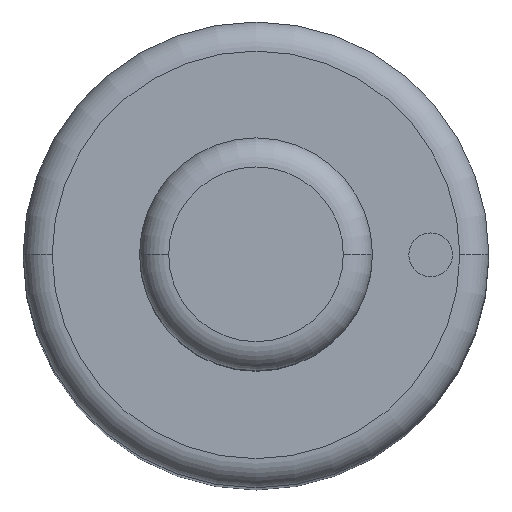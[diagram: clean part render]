
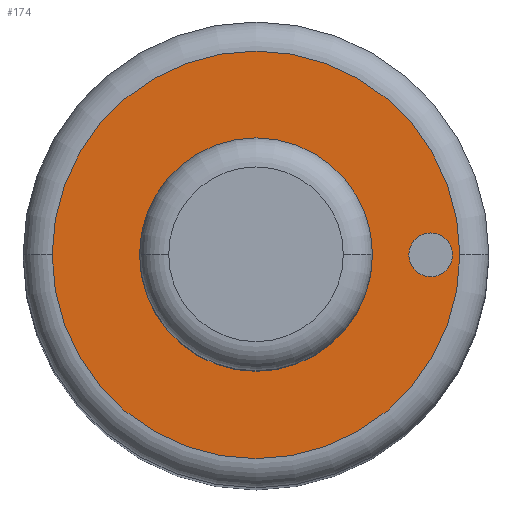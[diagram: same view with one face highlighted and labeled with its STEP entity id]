
A CAD part, top view. The second image highlights one B-rep face of the part: STEP entity #174.
In plain terms, the highlighted planar face has unit normal (0, 0, 1).
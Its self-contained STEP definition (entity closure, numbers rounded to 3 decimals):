
#99=FACE_BOUND('',#225,.T.);
#100=FACE_BOUND('',#226,.T.);
#101=FACE_BOUND('',#227,.T.);
#174=ADVANCED_FACE('',(#99,#100,#101),#180,.T.);
#180=PLANE('',#475);
#225=EDGE_LOOP('',(#307,#308));
#226=EDGE_LOOP('',(#309,#310));
#227=EDGE_LOOP('',(#311,#312));
#307=ORIENTED_EDGE('',*,*,#367,.F.);
#308=ORIENTED_EDGE('',*,*,#368,.F.);
#309=ORIENTED_EDGE('',*,*,#390,.F.);
#310=ORIENTED_EDGE('',*,*,#391,.F.);
#311=ORIENTED_EDGE('',*,*,#363,.T.);
#312=ORIENTED_EDGE('',*,*,#361,.T.);
#329=VERTEX_POINT('',#630);
#330=VERTEX_POINT('',#632);
#331=VERTEX_POINT('',#638);
#334=VERTEX_POINT('',#643);
#346=VERTEX_POINT('',#692);
#347=VERTEX_POINT('',#693);
#361=EDGE_CURVE('',#330,#329,#404,.T.);
#363=EDGE_CURVE('',#329,#330,#405,.T.);
#367=EDGE_CURVE('',#334,#331,#409,.T.);
#368=EDGE_CURVE('',#331,#334,#410,.T.);
#390=EDGE_CURVE('',#346,#347,#422,.T.);
#391=EDGE_CURVE('',#347,#346,#423,.T.);
#404=CIRCLE('',#440,4.);
#405=CIRCLE('',#442,4.);
#409=CIRCLE('',#447,7.);
#410=CIRCLE('',#449,7.);
#422=CIRCLE('',#473,0.75);
#423=CIRCLE('',#474,0.75);
#440=AXIS2_PLACEMENT_3D('',#631,#512,#513);
#442=AXIS2_PLACEMENT_3D('',#635,#517,#518);
#447=AXIS2_PLACEMENT_3D('',#644,#527,#528);
#449=AXIS2_PLACEMENT_3D('',#646,#531,#532);
#473=AXIS2_PLACEMENT_3D('',#691,#589,#590);
#474=AXIS2_PLACEMENT_3D('',#694,#591,#592);
#475=AXIS2_PLACEMENT_3D('',#695,#593,#594);
#512=DIRECTION('',(0.,0.,-1.));
#513=DIRECTION('',(0.,1.,0.));
#517=DIRECTION('',(0.,0.,-1.));
#518=DIRECTION('',(0.,-1.,0.));
#527=DIRECTION('',(0.,0.,-1.));
#528=DIRECTION('',(0.,1.,0.));
#531=DIRECTION('',(0.,0.,-1.));
#532=DIRECTION('',(0.,-1.,0.));
#589=DIRECTION('',(0.,0.,1.));
#590=DIRECTION('',(0.,1.,0.));
#591=DIRECTION('',(0.,0.,1.));
#592=DIRECTION('',(0.,-1.,0.));
#593=DIRECTION('',(0.,0.,1.));
#594=DIRECTION('',(0.,-1.,0.));
#630=CARTESIAN_POINT('',(-4.,0.,44.));
#631=CARTESIAN_POINT('',(0.,0.,44.));
#632=CARTESIAN_POINT('',(4.,0.,44.));
#635=CARTESIAN_POINT('',(0.,0.,44.));
#638=CARTESIAN_POINT('',(-7.,0.,44.));
#643=CARTESIAN_POINT('',(7.,0.,44.));
#644=CARTESIAN_POINT('',(0.,0.,44.));
#646=CARTESIAN_POINT('',(0.,0.,44.));
#691=CARTESIAN_POINT('',(6.,0.,44.));
#692=CARTESIAN_POINT('',(5.25,0.,44.));
#693=CARTESIAN_POINT('',(6.75,0.,44.));
#694=CARTESIAN_POINT('',(6.,0.,44.));
#695=CARTESIAN_POINT('',(0.,0.,44.));
